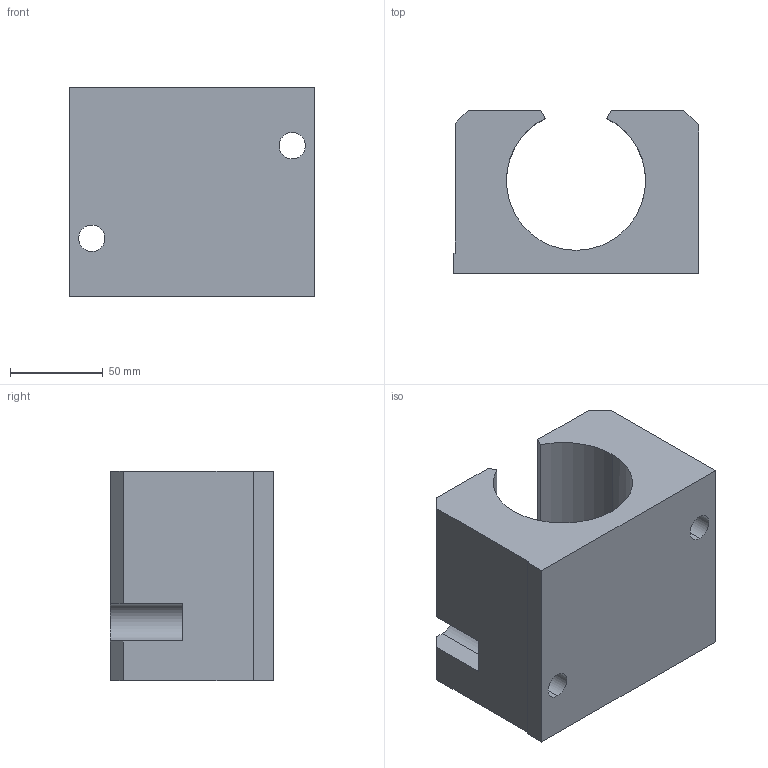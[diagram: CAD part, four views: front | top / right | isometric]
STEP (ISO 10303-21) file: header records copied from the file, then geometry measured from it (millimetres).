
FILE_DESCRIPTION (( 'STEP AP214' ), '1' );
FILE_NAME ('KGO37-50.step', '2020-03-04T13:21:48', ( '' ), ( '' ), 'SwSTEP 2.0', 'SolidWorks 2019', '' );
FILE_SCHEMA (( 'AUTOMOTIVE_DESIGN' ));
Length unit declared in the file: millimetre
Products named in the file (1): KGO37-50
Bounding box: 132 x 88 x 113 mm (x, y, z)
Volume: 743688.9 mm3; surface area: 90093.5 mm2
Topology: 1 solids, 1 shells, 41 faces, 110 edges, 72 vertices
Faces by surface type: plane 22, cylinder 17, cone 2
Entity records: 1528 total; most frequent: CARTESIAN_POINT 340, DIRECTION 220, ORIENTED_EDGE 220, EDGE_CURVE 110, VECTOR 76, LINE 76, VERTEX_POINT 72, AXIS2_PLACEMENT_3D 72
